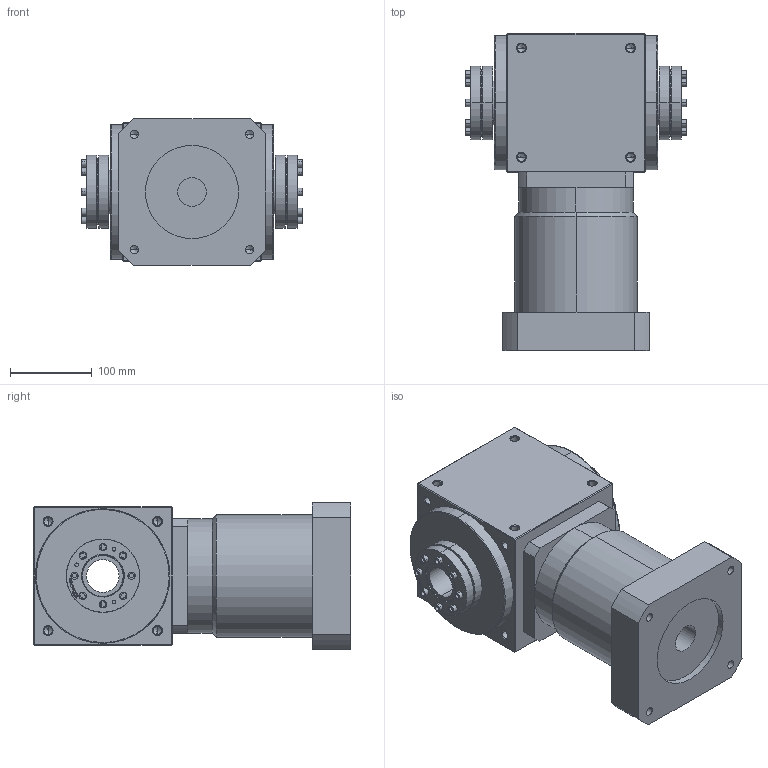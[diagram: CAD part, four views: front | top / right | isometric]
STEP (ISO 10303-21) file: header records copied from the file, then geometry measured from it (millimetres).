
FILE_DESCRIPTION (( 'STEP AP214' ), '1' );
FILE_NAME ('AT170-FC-L2--35-114.STEP', '2020-11-20T01:52:07', ( '微软用户' ), ( '微软中国' ), 'SwSTEP 2.0', 'SolidWorks 2014', '' );
FILE_SCHEMA (( 'AUTOMOTIVE_DESIGN' ));
Length unit declared in the file: millimetre
Products named in the file (6): 83_50x90_3; AT170-FC-L2--35-114.3-200-M12_1; AT170-FC-L2--35-114
Assembly tree (3 placements, depth 2):
  83_50x90_3
  83_50x90_3
  AT170-FC-L2--35-114.3-200-M12_1
  AT170-FC-L2--35-114
    AT170-FC-L2--35-114.3-200-M12_1
    83_50x90_3  x2
Bounding box: 271.2 x 389 x 180 mm (x, y, z)
Volume: 9856127.6 mm3; surface area: 491518.6 mm2
Topology: 25 solids, 25 shells, 1220 faces, 2870 edges, 1712 vertices
Faces by surface type: cylinder 532, plane 308, cone 272, torus 64, bspline 44
Entity records: 22088 total; most frequent: CARTESIAN_POINT 5201, DIRECTION 3577, ORIENTED_EDGE 3436, EDGE_CURVE 1718, AXIS2_PLACEMENT_3D 1376, VERTEX_POINT 1039, EDGE_LOOP 847, VECTOR 825
